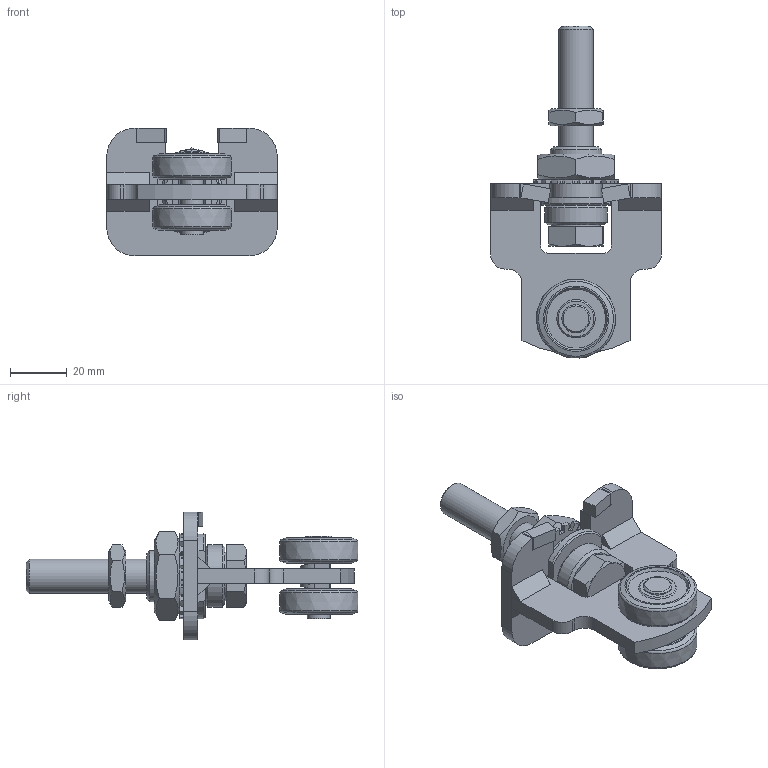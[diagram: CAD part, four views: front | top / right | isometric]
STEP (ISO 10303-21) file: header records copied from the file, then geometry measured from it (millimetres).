
FILE_DESCRIPTION(/* description */ ('Einfachrolle Horizontal Nr.1'),/* implementation_level */ '2;1');
FILE_NAME(/* name */ 'Q:\sge-ma\Produktmanagement-STB\STB\Workspace\TraceParts\Einfachrolle horizontal drehbar\010336342.stp',/* time_stamp */ '2018-03-02T09:28:29+01:00',/* author */ ('avschreier'),/* organization */ (''),/* preprocessor_version */ 'ST-DEVELOPER v16.1',/* originating_system */ 'Autodesk Inventor 2016',/* authorisation */ '');
FILE_SCHEMA (('CONFIG_CONTROL_DESIGN'));
Length unit declared in the file: millimetre
Products named in the file (13): 010336342_Schweißnähte; 000302039; 000302040; 000303235; 336290010; 000304011; 000302022; 000302025; DIN_EN_ISO_4035-M12_en; DIN_6798-A_19_en; DIN_EN_ISO_4017-M12x70_en; DIN_EN_ISO_4035-M18_en; 010336342
Assembly tree (14 placements, depth 2):
  010336342
    010336342_Schweißnähte
    000302039
    000302040
    000303235  x2
    336290010  x2
    000304011
    000302022
    000302025
    DIN_EN_ISO_4035-M12_en
    DIN_6798-A_19_en
    DIN_EN_ISO_4017-M12x70_en
    DIN_EN_ISO_4035-M18_en
Bounding box: 60 x 116.79 x 45 mm (x, y, z)
Volume: 52401.7 mm3; surface area: 29608.8 mm2
Topology: 17 solids, 17 shells, 393 faces, 981 edges, 634 vertices
Faces by surface type: plane 218, cylinder 114, cone 42, bspline 14, torus 5
Full cylindrical faces by diameter (mm): 8 x3, 10 x1, 10.106 x1, 11.053 x1, 12 x2, 12.5 x1, 15.294 x1, 17.2 x1, 18 x1, 19 x1, 22 x1
Entity records: 10891 total; most frequent: CARTESIAN_POINT 2577, DIRECTION 1742, ORIENTED_EDGE 1606, EDGE_CURVE 803, AXIS2_PLACEMENT_3D 635, VERTEX_POINT 546, LINE 472, VECTOR 472
